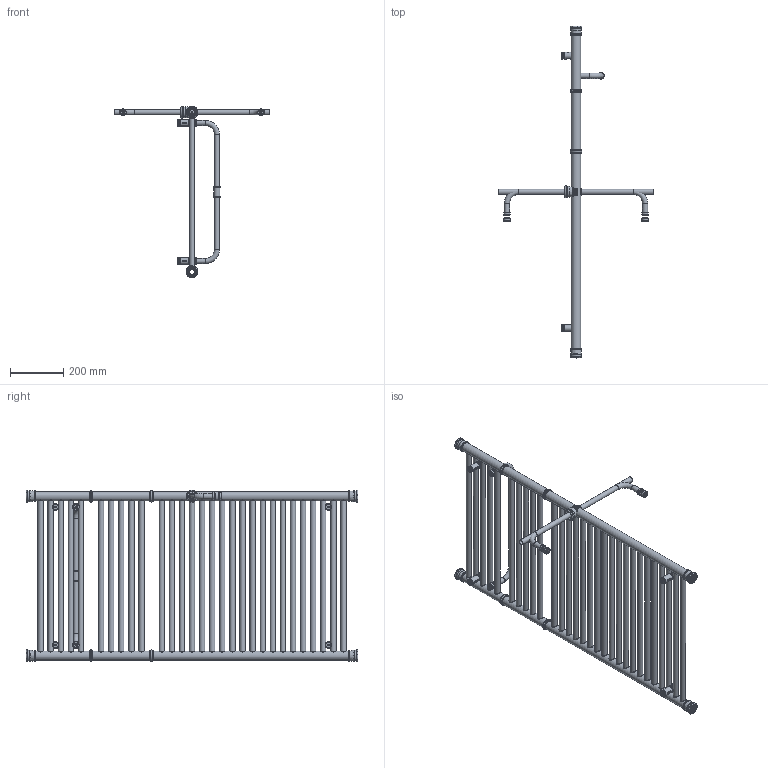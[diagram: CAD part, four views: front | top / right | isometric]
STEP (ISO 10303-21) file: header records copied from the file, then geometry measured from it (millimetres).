
FILE_DESCRIPTION( ( 'Unknown' ), '1' );
FILE_NAME( 'D:/Alplast sp. j/Witryna zespoBu - Projekty/Archiwum/Grzejniki Archiwum/Projekty/DESIGN PROGRAM/RETRO/Retro A5-600.stp', 'Unknown', ( 'Unknown' ), ( 'Unknown' ), 'PSStep 10.1', 'Unknown', ' ' );
FILE_SCHEMA( ( 'AUTOMOTIVE_DESIGN { 1 0 10303 214 1 1 1 1 }' ) );
Length unit declared in the file: millimetre
Products named in the file (60): suszarka Retro 600; Assem1; mocowanie do œciany; katurek z wkrêtem do mocowania do  sciany; Katurek fi 25 v4 ; wkrêt do katurka fi 25 v4; tulejka do mocowania grzejnika v3; mocowanie do grzejnika v3; zaœlepka do mocowania do œciany; detal-v3. par; element do suszarki do mocowania; element do suszarki do mocowania-oa0; tulejka do suszarki ; tulejka do suszarki -oa1; element do suszarki do mocowania ty³; element do suszarki do mocowania ty³-oa2; suszarka 600; kolektor Retro A5; kolektor Retro A5-oa3; Kana³ Prosty Retro 600; Kana³ Prosty Retro 600-oa4; Kana³ Prosty Retro 600-oa5; Kana³ Prosty Retro 600-oa6; Kana³ Prosty Retro 600-oa7; Kana³ Prosty Retro 600-oa8; Kana³ Prosty Retro 600-oa9; Kana³ Prosty Retro 600-oa10; Kana³ Prosty Retro 600-oa11; Kana³ Prosty Retro 600-oa12; Kana³ Prosty Retro 600-oa13; Kana³ Prosty Retro 600-oa14; Kana³ Prosty Retro 600-oa15; Kana³ Prosty Retro 600-oa16; Kana³ Prosty Retro 600-oa17; Kana³ Prosty Retro 600-oa18; Kana³ Prosty Retro 600-oa19; Kana³ Prosty Retro 600-oa20; Kana³ Prosty Retro 600-oa21; Kana³ Prosty Retro 600-oa22; Kana³ Prosty Retro 600-oa23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
Bounding box: 584 x 1248 x 644.99 mm (x, y, z)
Volume: 3526286.3 mm3; surface area: 5483593.6 mm2
Topology: 142 solids, 142 shells, 1144 faces, 2308 edges, 1482 vertices
Faces by surface type: cylinder 498, plane 342, torus 201, cone 84, bspline 12, sphere 7
Full cylindrical faces by diameter (mm): 4.917 x24, 5.9 x6, 6 x27, 6.3 x6, 6.4 x6, 15.5 x6, 17.5 x6, 17.6 x67, 18.631 x8, 20 x67, 20.3 x3, 20.5 x116, 20.6 x6, 21.15 x6, 21.9 x18, 22.8 x3, 24.5 x6, 25 x21, 25.25 x6, 25.3 x6, 32 x8, 32.4 x4, 35 x12, 35.3 x8, 35.5 x8, 39 x16, 41.15 x16
Entity records: 25062 total; most frequent: CARTESIAN_POINT 12732, DIRECTION 1718, ORIENTED_EDGE 990, EDGE_LOOP 972, AXIS2_PLACEMENT_3D 855, FACE_OUTER_BOUND 701, EDGE_CURVE 495, VERTEX_POINT 492
